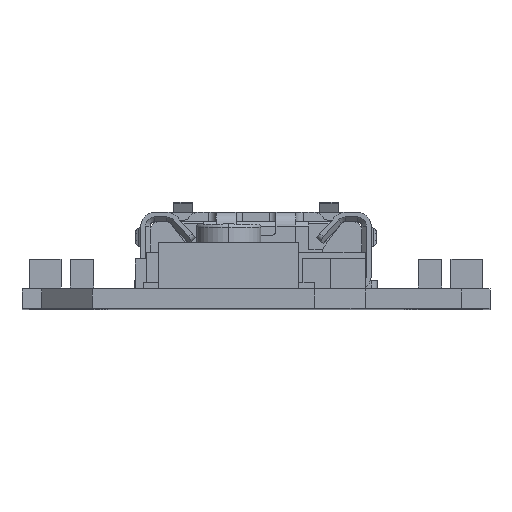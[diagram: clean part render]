
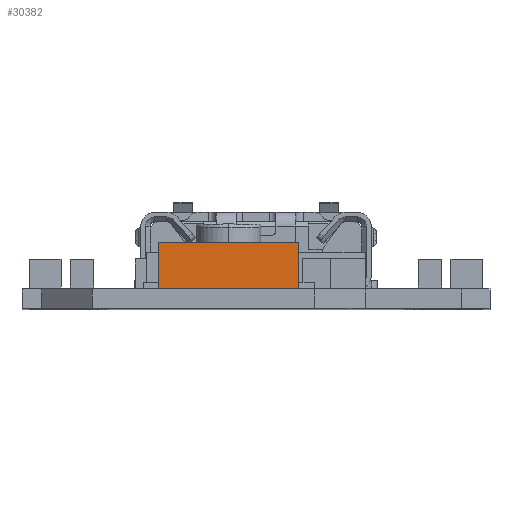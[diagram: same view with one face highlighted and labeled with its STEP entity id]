
A CAD part, top view. The second image highlights one B-rep face of the part: STEP entity #30382.
In plain terms, the highlighted planar face has unit normal (0, 0, 1).
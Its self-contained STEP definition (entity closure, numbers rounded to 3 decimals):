
#2030 = DIRECTION ( 'NONE',  ( 0., -1., 0. ) ) ;
#3440 = LINE ( 'NONE', #26647, #5288 ) ;
#3973 = VECTOR ( 'NONE', #2030, 1000. ) ;
#4602 = CARTESIAN_POINT ( 'NONE',  ( 1.397, 2.135, 11.684 ) ) ;
#5056 = PLANE ( 'NONE',  #11488 ) ;
#5288 = VECTOR ( 'NONE', #7947, 1000. ) ;
#6671 = CARTESIAN_POINT ( 'NONE',  ( -3.175, 2.135, 11.684 ) ) ;
#7947 = DIRECTION ( 'NONE',  ( 1., 0., 0. ) ) ;
#9543 = CARTESIAN_POINT ( 'NONE',  ( -3.175, 0.635, 11.684 ) ) ;
#9747 = EDGE_CURVE ( 'NONE', #25576, #11743, #26898, .T. ) ;
#10280 = CARTESIAN_POINT ( 'NONE',  ( -3.175, 2.135, 11.684 ) ) ;
#10812 = CARTESIAN_POINT ( 'NONE',  ( 1.397, 0.635, 11.684 ) ) ;
#11488 = AXIS2_PLACEMENT_3D ( 'NONE', #12112, #12309, #21739 ) ;
#11743 = VERTEX_POINT ( 'NONE', #23723 ) ;
#12112 = CARTESIAN_POINT ( 'NONE',  ( -3.175, 2.135, 11.684 ) ) ;
#12309 = DIRECTION ( 'NONE',  ( 0., 0., -1. ) ) ;
#12396 = VERTEX_POINT ( 'NONE', #10812 ) ;
#14600 = EDGE_CURVE ( 'NONE', #25576, #18067, #17672, .T. ) ;
#14694 = EDGE_LOOP ( 'NONE', ( #17284, #27232, #27120, #19075 ) ) ;
#16132 = VECTOR ( 'NONE', #21273, 1000. ) ;
#17284 = ORIENTED_EDGE ( 'NONE', *, *, #30538, .T. ) ;
#17672 = LINE ( 'NONE', #28115, #3973 ) ;
#18067 = VERTEX_POINT ( 'NONE', #9543 ) ;
#19075 = ORIENTED_EDGE ( 'NONE', *, *, #14600, .T. ) ;
#20222 = FACE_OUTER_BOUND ( 'NONE', #14694, .T. ) ;
#21273 = DIRECTION ( 'NONE',  ( 0., -1., 0. ) ) ;
#21653 = VECTOR ( 'NONE', #24191, 1000. ) ;
#21739 = DIRECTION ( 'NONE',  ( -1., 0., 0. ) ) ;
#23092 = EDGE_CURVE ( 'NONE', #11743, #12396, #29499, .T. ) ;
#23723 = CARTESIAN_POINT ( 'NONE',  ( 1.397, 2.135, 11.684 ) ) ;
#24191 = DIRECTION ( 'NONE',  ( 1., 0., 0. ) ) ;
#25576 = VERTEX_POINT ( 'NONE', #6671 ) ;
#26647 = CARTESIAN_POINT ( 'NONE',  ( -3.175, 0.635, 11.684 ) ) ;
#26898 = LINE ( 'NONE', #10280, #21653 ) ;
#27120 = ORIENTED_EDGE ( 'NONE', *, *, #9747, .F. ) ;
#27232 = ORIENTED_EDGE ( 'NONE', *, *, #23092, .F. ) ;
#28115 = CARTESIAN_POINT ( 'NONE',  ( -3.175, 2.135, 11.684 ) ) ;
#29499 = LINE ( 'NONE', #4602, #16132 ) ;
#30382 = ADVANCED_FACE ( 'NONE', ( #20222 ), #5056, .F. ) ;
#30538 = EDGE_CURVE ( 'NONE', #18067, #12396, #3440, .T. ) ;
